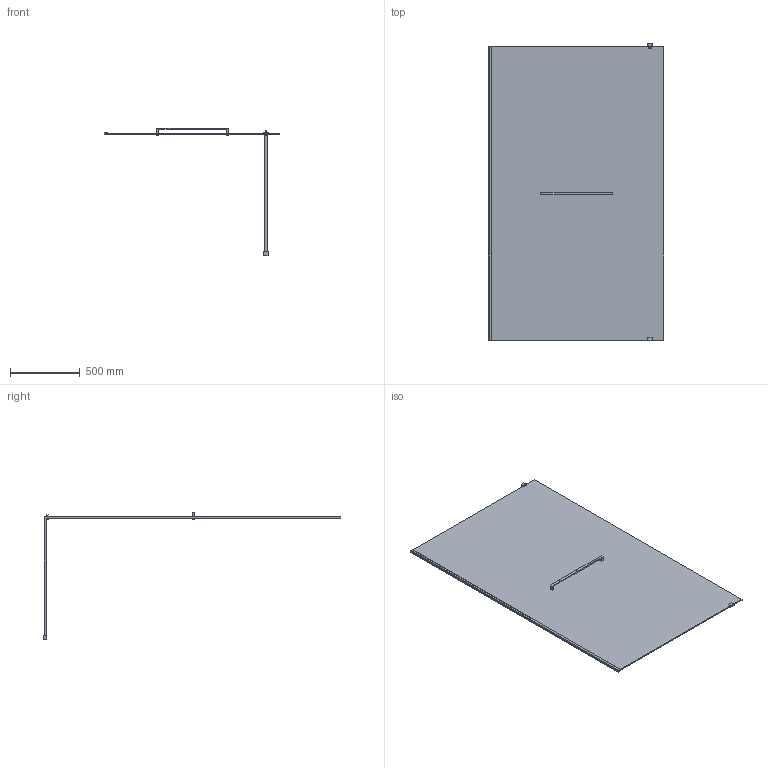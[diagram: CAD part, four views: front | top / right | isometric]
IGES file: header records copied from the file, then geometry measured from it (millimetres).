
Start section: SolidWorks IGES file using analytic representation for surfaces
Global section: file name: D:\Users\M.Szymanski\Desktop\Kabiny\PIII_ALTIIa\03. do przegrania\PIII_ALTIIa_130_z_relingiem_K3D.IGS; native system: SolidWorks 2011; preprocessor: SolidWorks 2011; author: M.Szymanski; date: 181005.105210; units: millimetre
Bounding box: 1258.45 x 2128 x 914.13 mm (x, y, z)
Surface area: 5623030.1 mm2 (no closed solid volume)
Topology: 0 solids, 0 shells, 62 faces, 444 edges, 592 vertices
Faces by surface type: bspline 62
